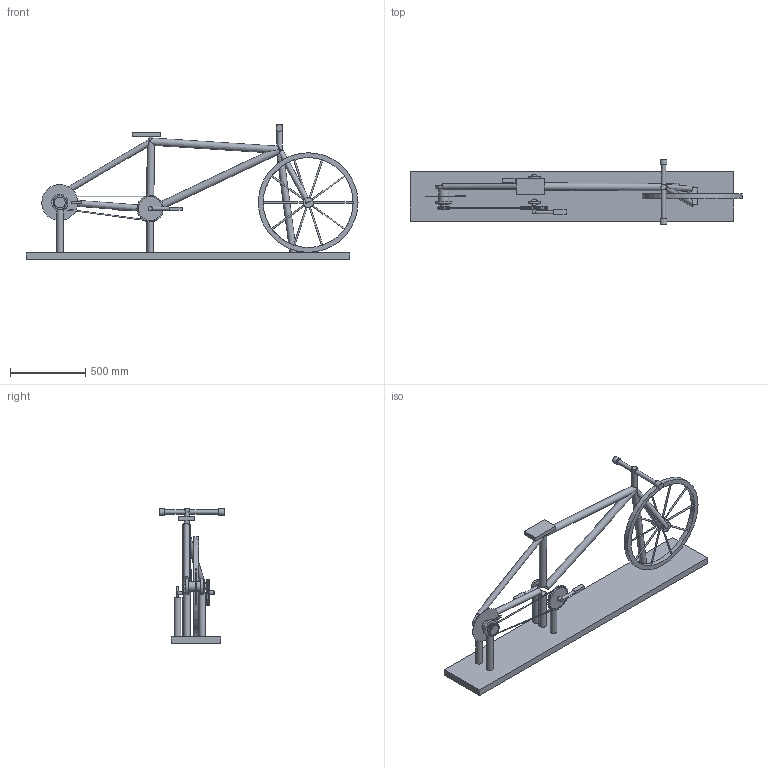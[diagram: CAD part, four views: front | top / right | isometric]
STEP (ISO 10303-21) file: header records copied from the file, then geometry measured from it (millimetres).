
FILE_DESCRIPTION(('Open CASCADE Model'),'2;1');
FILE_NAME('cleanroom_bicycle_drivetrain_demonstrator', '2026-07-28T00:00:00+00:00',('Author'),('Open CASCADE'), 'Open CASCADE STEP processor 7.8','build123d','Unknown');
FILE_SCHEMA(('AUTOMOTIVE_DESIGN { 1 0 10303 214 1 1 1 1 }'));
Length unit declared in the file: millimetre
Products named in the file (5): cleanroom_bicycle_drivetrain_demonstrator; fixed_laboratory_bicycle_chassis; activation_input_crank_chainring_and_pedals; activation_rear_drive_disc_and_sprocket; visible_closed_chain_path
Assembly tree (4 placements, depth 2):
  cleanroom_bicycle_drivetrain_demonstrator
    fixed_laboratory_bicycle_chassis
    activation_input_crank_chainring_and_pedals
    activation_rear_drive_disc_and_sprocket
    visible_closed_chain_path
Bounding box: 2206 x 435 x 900 mm (x, y, z)
Volume: 47132995.4 mm3; surface area: 3274006.8 mm2
Topology: 4 solids, 4 shells, 650 faces, 1728 edges, 1098 vertices
Faces by surface type: cylinder 355, plane 289, torus 6
Full cylindrical faces by diameter (mm): 6 x98, 9 x10, 20 x2, 26 x2, 27.2 x2, 28 x2, 32 x1, 36 x3, 38 x1, 40 x2, 44 x7, 48 x3, 50 x1, 68 x3, 69.2 x2, 72 x2, 89.5 x2, 175.5 x2, 598 x1, 662 x1
Entity records: 64609 total; most frequent: CARTESIAN_POINT 32425, DIRECTION 5715, ORIENTED_EDGE 3440, PCURVE 3440, DEFINITIONAL_REPRESENTATION 3440, B_SPLINE_CURVE_WITH_KNOTS 2126, AXIS2_PLACEMENT_3D 2035, EDGE_CURVE 1720
